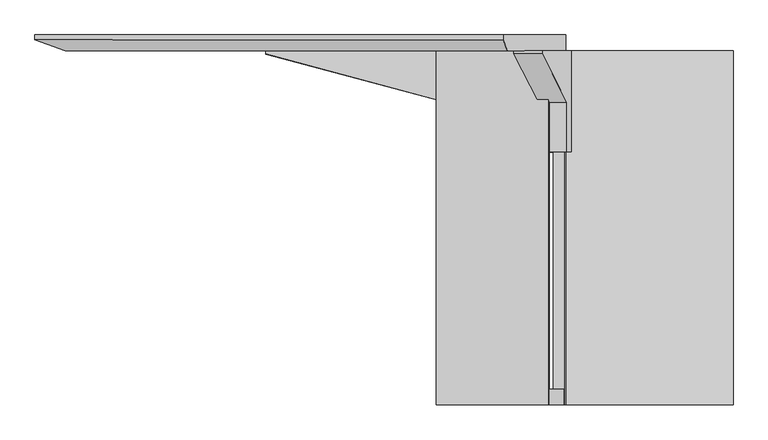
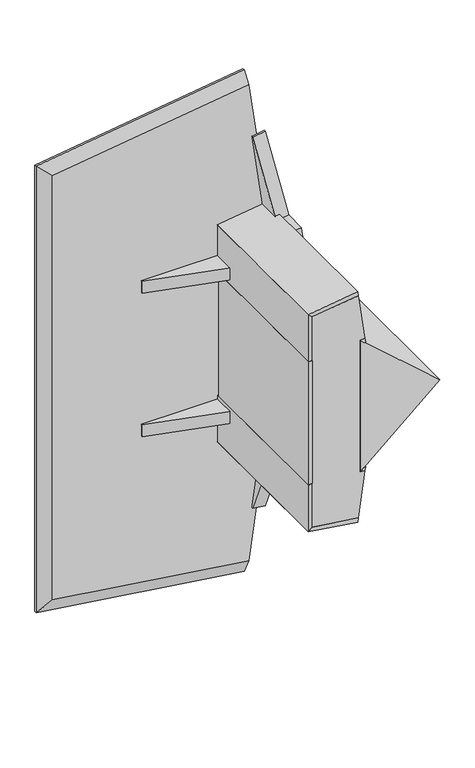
"""IFC4 building model written with IfcOpenShell, lengths in millimetres: proxy geometry, VIEWLINE^TABLE 3_HEAD TOP SECTION-ASSEMBLY."""

from ifc_helpers import new_model, si_unit, frame, origin, place, context, project, spatial, polyline, outline, extrude, faceted_brep, source, transform, mapped, element, save


def generic_models_d76be80b(model_context):
    return source(origin(), model_context, "Body", "SolidModel", [
        extrude(outline(polyline([(889.0, 0.0), (889.0, -203.2), (825.5, -203.2), (825.5, -103.3342102), (463.55, -6.35), (463.55, 0.0), (889.0, 0.0)])), frame((0.0, 0.0, -752.5108567), z_axis=(0.0, 0.0, 1.0), x_axis=(1.0, 0.0, 0.0)), (0.0, 0.0, 1.0), 57.15),
        extrude(outline(polyline([(-769.0910246, 1060.45), (-768.3284797, 1065.9238641), (-749.4606772, 1063.2954565), (-752.5108567, 1041.4), (-769.0910246, 1060.45)])), frame((0.0, -711.2, 0.0), z_axis=(0.0, 1.0, 0.0), x_axis=(0.0, 0.0, 1.0)), (0.0, 0.0, 1.0), 711.2),
        extrude(outline(polyline([(2.54, 0.0), (-200.66, 0.0), (-200.66, 63.5), (-100.7942102, 63.5), (-3.81, 425.45), (2.54, 425.45), (2.54, 0.0)])), frame((1020.8846856, -2.54, -601.4971188), z_axis=(0.9904358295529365, 0.0, 0.1379741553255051), x_axis=(0.0, 1.0000000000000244, 0.0)), (0.0, 0.0, 1.0), 57.15),
        extrude(outline(polyline([(-1585.5778806, 806.45), (-1616.842221, 1030.8784287), (-1597.9744184, 1033.5068363), (-1568.9977127, 825.5), (-1585.5778806, 806.45)])), frame((0.0, -711.2, 0.0), z_axis=(0.0, 1.0, 0.0), x_axis=(0.0, 0.0, 1.0)), (0.0, 0.0, 1.0), 711.2),
        extrude(outline(polyline([(825.5, -711.2), (806.45, -711.2), (806.45, -12.7), (825.5, -12.7), (825.5, -711.2)])), frame((0.0, 0.0, -1360.4516433), z_axis=(0.0, 0.0, 1.0), x_axis=(1.0, 0.0, 0.0)), (0.0, 0.0, 1.0), 587.3032865),
        extrude(outline(polyline([(-1381.0891433, 1041.4), (-1384.1393228, 1063.2954565), (-1365.2715203, 1065.9238641), (-1364.5089754, 1060.45), (-1381.0891433, 1041.4)])), frame((0.0, -711.2, 0.0), z_axis=(0.0, 1.0, 0.0), x_axis=(0.0, 0.0, 1.0)), (0.0, 0.0, 1.0), 711.2),
        extrude(outline(polyline([(874.1058489, 19.05), (874.1058489, 31.75), (1007.4558489, 31.75), (1007.4558489, 19.05), (874.1058489, 19.05)])), frame((0.0, 0.0, -1165.225), z_axis=(0.0, 0.0, 1.0), x_axis=(1.0, 0.0, 0.0)), (0.0, 0.0, 1.0), 196.85),
        extrude(outline(polyline([(-749.4606772, 1063.2954565), (-535.6255816, 1033.5068363), (-564.6022873, 825.5), (-1568.9977127, 825.5), (-1597.9744184, 1033.5068363), (-1384.1393228, 1063.2954565), (-1381.0891433, 1041.4), (-752.5108567, 1041.4), (-749.4606772, 1063.2954565)])), frame((0.0, -711.2, 0.0), z_axis=(0.0, 1.0, 0.0), x_axis=(0.0, 0.0, 1.0)), (0.0, 0.0, 1.0), 31.75),
        extrude(outline(polyline([(0.0, -425.45), (0.0, 0.0), (203.2, 0.0), (203.2, -63.5), (103.3342102, -63.5), (6.35, -425.45), (0.0, -425.45)])), frame((1077.4880933, 0.0, -1539.9881042), z_axis=(-0.9904358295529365, 0.0, 0.1379741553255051), x_axis=(0.0, -1.0000000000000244, 0.0)), (0.0, 0.0, 1.0), 57.15),
        extrude(outline(polyline([(-752.5108567, 1041.4), (-749.4606772, 1063.2954565), (-535.6255816, 1033.5068363), (-564.6022873, 825.5), (-1568.9977127, 825.5), (-1597.9744184, 1033.5068363), (-1384.1393228, 1063.2954565), (-1381.0891433, 1041.4), (-752.5108567, 1041.4)])), frame((0.0, -19.05, 0.0), z_axis=(0.0, 1.0, 0.0), x_axis=(0.0, 0.0, 1.0)), (0.0, 0.0, 1.0), 19.05),
        faceted_brep([(0.0, 31.75, 0.0), (940.6364324, 31.75, 131.0367753), (1066.8, 31.75, -774.6177473), (1066.8, 31.75, -1358.9822527), (940.6364324, 31.75, -2264.6367753), (0.0, 31.75, -2133.6), (61.0626856, 0.0, -2080.4540903), (949.0615048, 0.0, -2204.1581036), (1066.8, 0.0, -1358.9822527), (1066.8, 0.0, -774.6177473), (949.0615048, 0.0, 70.5581036), (61.0626856, 0.0, -53.1459097), (0.0, 22.225, -2133.6), (940.6364324, 22.225, -2264.6367753), (0.0, 22.225, 0.0), (940.6364324, 22.225, 131.0367753)], [[[0, 1, 2, 3, 4, 5]], [[6, 7, 8, 9, 10, 11]], [[6, 12, 13, 7]], [[13, 12, 5, 4]], [[12, 6, 11, 14]], [[12, 14, 0, 5]], [[14, 11, 10, 15]], [[14, 15, 1, 0]], [[15, 10, 9, 2, 1]], [[7, 13, 4, 3, 8]], [[9, 8, 3, 2]]]),
        extrude(outline(polyline([(-516.757779, 1030.8784287), (-548.0221194, 806.45), (-564.6022873, 825.5), (-535.6255816, 1033.5068363), (-516.757779, 1030.8784287)])), frame((0.0, -711.2, 0.0), z_axis=(0.0, 1.0, 0.0), x_axis=(0.0, 0.0, 1.0)), (0.0, 0.0, 1.0), 711.2),
        extrude(outline(polyline([(463.55, 0.0), (889.0, 0.0), (889.0, -203.2), (825.5, -203.2), (825.5, -103.3342102), (463.55, -6.35), (463.55, 0.0)])), frame((0.0, 0.0, -1438.2391433), z_axis=(0.0, 0.0, 1.0), x_axis=(1.0, 0.0, 0.0)), (0.0, 0.0, 1.0), 57.15),
        extrude(outline(polyline([(-1585.5778806, 806.45), (-1568.9977127, 825.5), (-1362.0391433, 825.5), (-1362.0391433, 806.45), (-1585.5778806, 806.45)])), frame((0.0, -711.2, 0.0), z_axis=(0.0, 1.0, 0.0), x_axis=(0.0, 0.0, 1.0)), (0.0, 0.0, 1.0), 711.2),
        extrude(outline(polyline([(-1381.0891433, 1041.4), (-1066.8, 1402.5066075), (-752.5108567, 1041.4), (-1381.0891433, 1041.4)])), frame((0.0, -711.2, 0.0), z_axis=(0.0, 1.0, 0.0), x_axis=(0.0, 0.0, 1.0)), (0.0, 0.0, 1.0), 711.2),
        extrude(outline(polyline([(-771.5608567, 806.45), (-771.5608567, 825.5), (-564.6022873, 825.5), (-548.0221194, 806.45), (-771.5608567, 806.45)])), frame((0.0, -711.2, 0.0), z_axis=(0.0, 1.0, 0.0), x_axis=(0.0, 0.0, 1.0)), (0.0, 0.0, 1.0), 711.2),
    ])


if __name__ == "__main__":
    model = new_model("IFC4")
    model_context = context("Model", 3, world=origin())
    ifc_project = project(units=[si_unit("LENGTHUNIT", "METRE", prefix="MILLI")], contexts=[model_context])
    site = spatial("IfcSite", under=ifc_project)
    building = spatial("IfcBuilding", under=site)
    placement = place(None, origin())
    generic_models_shape = generic_models_d76be80b(model_context)
    element("IfcBuildingElementProxy", 1, Name="VIEWLINE^TABLE 3_HEAD TOP SECTION-ASSEMBLY", ObjectType="VIEWLINE^TABLE 3_HEAD TOP SECTION-ASSEMBLY", at=placement, inside=building, context=model_context, shape_type="MappedRepresentation", body=[
        mapped(generic_models_shape, transform((0.0, 0.0, 0.0), x_axis=(1.0, 0.0, 0.0), y_axis=(0.0, 1.0, 0.0), z_axis=(0.0, 0.0, 1.0))),
    ])
    save(model, "model.ifc")
